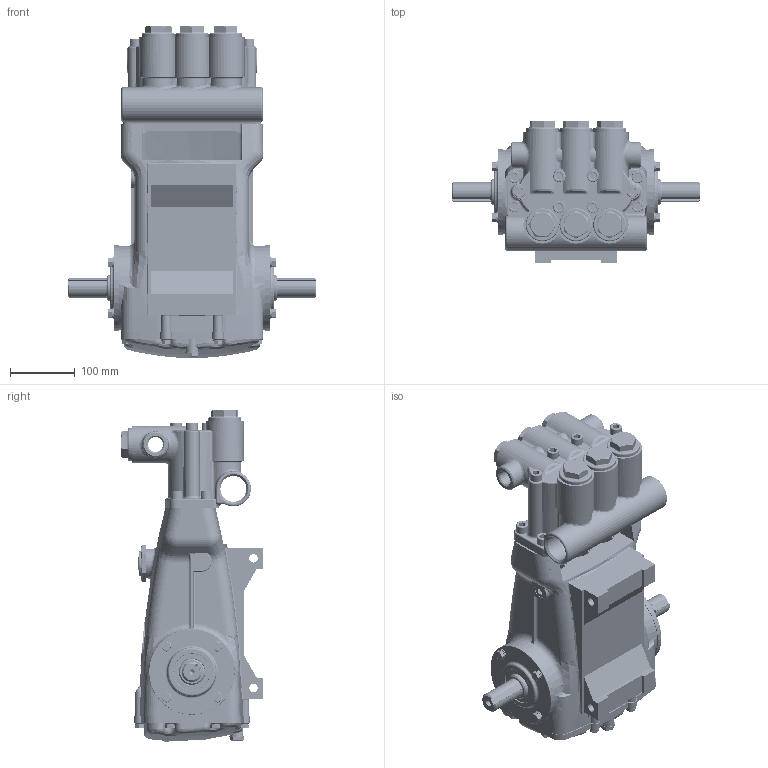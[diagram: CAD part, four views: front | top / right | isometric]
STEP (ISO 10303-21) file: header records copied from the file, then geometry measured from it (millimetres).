
FILE_DESCRIPTION (( 'STEP AP214' ), '1' );
FILE_NAME ('2510.STEP', '2013-01-08T09:31:04', ( '' ), ( '' ), 'SwSTEP 2.0', 'SolidWorks 2012', '' );
FILE_SCHEMA (( 'AUTOMOTIVE_DESIGN' ));
Length unit declared in the file: millimetre
Products named in the file (1): 2510
Bounding box: 382 x 219.5 x 511.45 mm (x, y, z)
Volume: 6965884.6 mm3; surface area: 1187028.2 mm2
Topology: 1 solids, 26 shells, 5757 faces, 14902 edges, 9310 vertices
Faces by surface type: cylinder 2199, plane 1858, bspline 658, torus 616, cone 230, sphere 196
Entity records: 335637 total; most frequent: CARTESIAN_POINT 155947, ORIENTED_EDGE 29416, DIRECTION 25103, EDGE_CURVE 14708, AXIS2_PLACEMENT_3D 9441, VERTEX_POINT 9237, VECTOR 6221, LINE 6221
